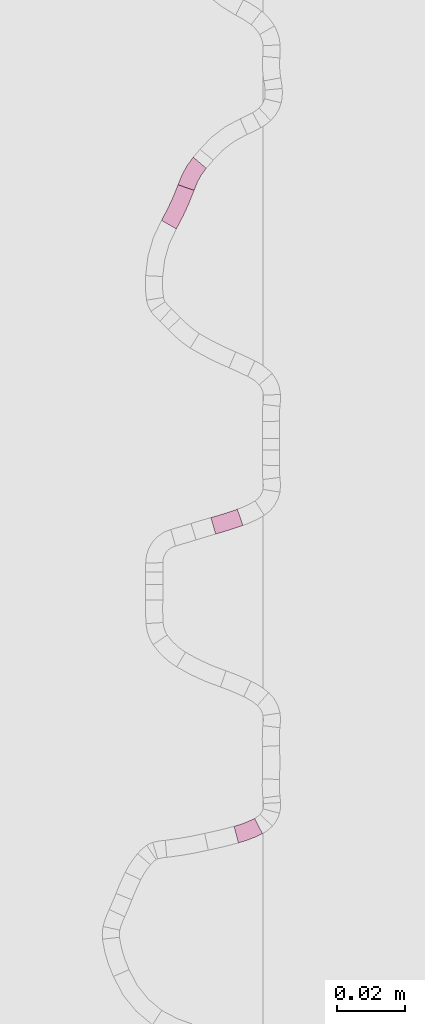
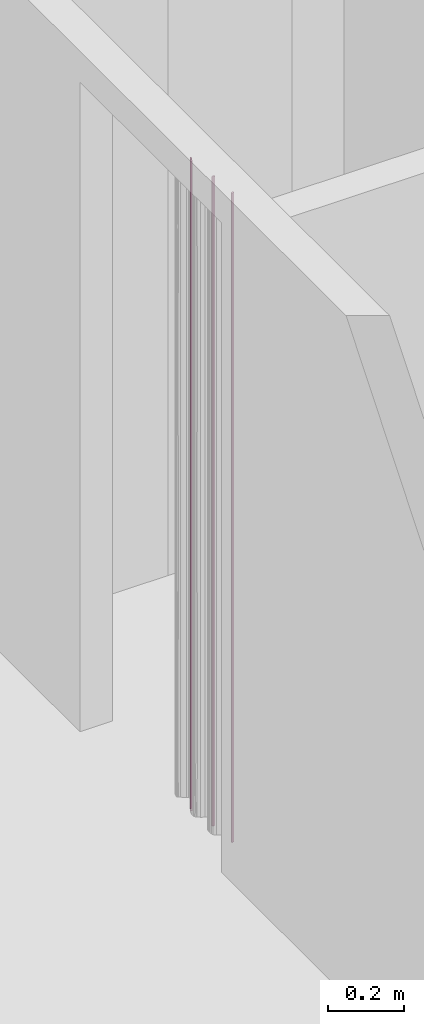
# One storey, part 207 of 418: 4 furnishings.
"""IFC2X3 building model written with IfcOpenShell, lengths in millimetres."""

import ifcopenshell
import ifcopenshell.guid

model = None  # the IFC model being written
_history = None  # IfcOwnerHistory: only IFC2X3 demands one
_inside = {}  # id of a spatial element -> (the spatial element, [elements in it])
_under = {}  # id of a project, library or spatial element -> (it, [spatial elements below it])
_declared = {}  # id of a project -> (the project, [libraries it declares])
_typed = {}  # id of a type object -> (the type object, [elements of that type])
_made_of = {}  # id of a material, layer set ... -> (it, [elements and type objects made of it])


def new_model(schema):
    """Start an empty IFC model of exactly this schema.

    Asked for "IFC4X3", IfcOpenShell would pick the latest addendum, in which some entities
    have other attributes; the version numbers below select the first issue.
    IFC2X3 requires an IfcOwnerHistory on every rooted entity: one is made here for all.
    """
    global model, _history
    if schema == "IFC4X3":
        model = ifcopenshell.file(schema_version=(4, 3, 0, 0))
    else:
        model = ifcopenshell.file(schema=schema)
    _inside.clear()
    _under.clear()
    _declared.clear()
    _typed.clear()
    _made_of.clear()
    _history = None
    if model.schema == "IFC2X3":
        org = make("IfcOrganization", Name="unknown")
        user = make(
            "IfcPersonAndOrganization",
            ThePerson=make("IfcPerson", FamilyName="unknown"),
            TheOrganization=org,
        )
        app = make(
            "IfcApplication",
            ApplicationDeveloper=org,
            Version="unknown",
            ApplicationFullName="unknown",
            ApplicationIdentifier="unknown",
        )
        _history = make(
            "IfcOwnerHistory",
            OwningUser=user,
            OwningApplication=app,
            ChangeAction="ADDED",
            CreationDate=0,
        )
    return model


def make(cls, **values):
    """One entity of the class cls with the attributes given. An attribute that is None is left unset."""
    return model.create_entity(
        cls, **{name: value for name, value in values.items() if value is not None}
    )


def entity(cls, *values):
    """Any entity or typed value of the class cls, its attributes in the order of the schema. None: left unset."""
    e = model.create_entity(cls)
    for i, value in enumerate(values):
        if value is not None:
            e[i] = value
    return e


def rooted(cls, **values):
    """An entity with a GlobalId (a new one), such as an element, a storey or a relation."""
    return make(cls, GlobalId=ifcopenshell.guid.new(), OwnerHistory=_history, **values)


def si_unit(unit_type, name, prefix=None):
    """IfcSIUnit, for example si_unit("LENGTHUNIT", "METRE", prefix="MILLI")."""
    return make("IfcSIUnit", UnitType=unit_type, Prefix=prefix, Name=name)


def converted_unit(unit_type, name, factor, base, dimensions=None, offset=None):
    """IfcConversionBasedUnit, such as the inch: factor (a typed value) times the base unit."""
    return make(
        "IfcConversionBasedUnit"
        if offset is None
        else "IfcConversionBasedUnitWithOffset",
        ConversionOffset=offset,
        Dimensions=None
        if dimensions is None
        else entity("IfcDimensionalExponents", *dimensions),
        UnitType=unit_type,
        Name=name,
        ConversionFactor=make(
            "IfcMeasureWithUnit", ValueComponent=factor, UnitComponent=base
        ),
    )


def derived_unit(unit_type, elements):
    """IfcDerivedUnit: a product of units, each with its exponent."""
    return make(
        "IfcDerivedUnit",
        Elements=[
            make("IfcDerivedUnitElement", Unit=unit, Exponent=power)
            for unit, power in elements
        ],
        UnitType=unit_type,
    )


def money_unit(currency):
    """IfcMonetaryUnit."""
    return make("IfcMonetaryUnit", Currency=currency)


def assignment(units):
    """IfcUnitAssignment: the units of a project."""
    return None if units is None else make("IfcUnitAssignment", Units=units)


def point(xyz):
    """IfcCartesianPoint."""
    return None if xyz is None else make("IfcCartesianPoint", Coordinates=xyz)


def direction(xyz):
    """IfcDirection."""
    return None if xyz is None else make("IfcDirection", DirectionRatios=xyz)


def frame(location, z_axis=None, x_axis=None):
    """IfcAxis2Placement3D, a coordinate frame: its origin and axes. An axis left out is left unset."""
    return make(
        "IfcAxis2Placement3D",
        Location=point(location),
        Axis=direction(z_axis),
        RefDirection=direction(x_axis),
    )


def frame_2d(location, x_axis=None):
    """IfcAxis2Placement2D, a coordinate frame in the plane: its origin and x axis."""
    return make(
        "IfcAxis2Placement2D", Location=point(location), RefDirection=direction(x_axis)
    )


def origin_with_axes():
    """The frame at (0, 0, 0) with the z axis (0, 0, 1) and the x axis (1, 0, 0) written out."""
    return frame((0.0, 0.0, 0.0), z_axis=(0.0, 0.0, 1.0), x_axis=(1.0, 0.0, 0.0))


def place(relative_to, where):
    """IfcLocalPlacement: puts the frame where relative to a parent placement (None: the world)."""
    return make(
        "IfcLocalPlacement", PlacementRelTo=relative_to, RelativePlacement=where
    )


def context(
    kind, dimensions, precision=None, world=None, true_north=None, identifier=None
):
    """IfcGeometricRepresentationContext, for example the 3D "Model" context."""
    return make(
        "IfcGeometricRepresentationContext",
        ContextIdentifier=identifier,
        ContextType=kind,
        CoordinateSpaceDimension=dimensions,
        Precision=precision,
        WorldCoordinateSystem=world,
        TrueNorth=true_north,
    )


def subcontext(parent, identifier, kind, view, scale=None):
    """IfcGeometricRepresentationSubContext, for example "Body" below "Model"."""
    return make(
        "IfcGeometricRepresentationSubContext",
        ContextIdentifier=identifier,
        ContextType=kind,
        ParentContext=parent,
        TargetScale=scale,
        TargetView=view,
    )


def project(units=None, contexts=None):
    """IfcProject with its units and contexts."""
    return rooted(
        "IfcProject",
        Name="project",
        RepresentationContexts=contexts,
        UnitsInContext=assignment(units),
    )


def spatial(cls, under=None, at=None, **own):
    """A site, building, storey or space (cls), placed at a placement, below another one or the project."""
    s = rooted(cls, ObjectPlacement=at, **own)
    if under is not None:
        _under.setdefault(under.id(), (under, []))[1].append(s)
    return s


def polyline(points):
    """IfcPolyline through the points."""
    return make("IfcPolyline", Points=[point(p) for p in points])


def circle_curve(where, radius):
    """IfcCircle in the frame where."""
    return make("IfcCircle", Position=where, Radius=radius)


def parameter(value):
    """IfcParameterValue: where a trimmed curve begins or ends, as a parameter of its basis curve."""
    return model.create_entity("IfcParameterValue", value)


def trimmed(basis, trim1, trim2, sense, master):
    """IfcTrimmedCurve: the piece of a basis curve between two trims."""
    return make(
        "IfcTrimmedCurve",
        BasisCurve=basis,
        Trim1=trim1,
        Trim2=trim2,
        SenseAgreement=sense,
        MasterRepresentation=master,
    )


def segment(curve, same_sense, transition):
    """IfcCompositeCurveSegment."""
    return make(
        "IfcCompositeCurveSegment",
        Transition=transition,
        SameSense=same_sense,
        ParentCurve=curve,
    )


def composite_curve(segments, self_intersect=None):
    """IfcCompositeCurve: segments joined end to end."""
    return make("IfcCompositeCurve", Segments=segments, SelfIntersect=self_intersect)


def outline(outer, holes=None, kind="AREA"):
    """IfcArbitraryClosedProfileDef: a profile drawn as a closed curve; with holes, ...WithVoids."""
    if holes is None:
        return make("IfcArbitraryClosedProfileDef", ProfileType=kind, OuterCurve=outer)
    return make(
        "IfcArbitraryProfileDefWithVoids",
        ProfileType=kind,
        OuterCurve=outer,
        InnerCurves=holes,
    )


def extrude(swept, where, along, depth):
    """IfcExtrudedAreaSolid: the profile swept, set in the frame where, extruded along a direction by depth."""
    return make(
        "IfcExtrudedAreaSolid",
        SweptArea=swept,
        Position=where,
        ExtrudedDirection=direction(along),
        Depth=depth,
    )


def shape(context_of_items, identifier, shape_type, items):
    """IfcShapeRepresentation: the items that make up one representation, for example the "Body"."""
    return make(
        "IfcShapeRepresentation",
        ContextOfItems=context_of_items,
        RepresentationIdentifier=identifier,
        RepresentationType=shape_type,
        Items=items,
    )


def material(Name=None, Category=None):
    """IfcMaterial."""
    return make("IfcMaterial", Name=Name, Category=Category)


def made_of(thing, what):
    """Note that an element or type object is made of a material, layer set ...; save() writes the relation."""
    if what is not None:
        _made_of.setdefault(what.id(), (what, []))[1].append(thing)
    return thing


def type_object(cls, material=None, **own):
    """A type object (cls), such as IfcWallType, which elements share."""
    return made_of(rooted(cls, **own), material)


def element(
    cls,
    number,
    at=None,
    inside=None,
    cuts=None,
    type_object=None,
    material=None,
    context=None,
    identifier="Body",
    shape_type=None,
    held_by="IfcProductDefinitionShape",
    body=None,
    shapes=None,
    **own,
):
    """One element of the class cls, such as IfcWall. Its Tag is "e" and its number.

    at: its placement. inside: the storey or other place that contains it. cuts: it is an
    opening in that element (IfcRelVoidsElement). A single representation is given by context,
    identifier, shape_type and body (its items); several are given by shapes. held_by: the class
    of the entity that holds the representations. save() writes the other relations.
    """
    e = rooted(cls, Tag="e%d" % number, ObjectPlacement=at, **own)
    if body is not None:
        shapes = [shape(context, identifier, shape_type, body)]
    if shapes is not None:
        e.Representation = make(held_by, Representations=shapes)
    if inside is not None:
        _inside.setdefault(inside.id(), (inside, []))[1].append(e)
    if cuts is not None:
        rooted(
            "IfcRelVoidsElement", RelatingBuildingElement=cuts, RelatedOpeningElement=e
        )
    if type_object is not None:
        _typed.setdefault(type_object.id(), (type_object, []))[1].append(e)
    return made_of(e, material)


def aggregate(whole, parts):
    """IfcRelAggregates: a whole, such as a stair, and the parts it consists of."""
    return rooted("IfcRelAggregates", RelatingObject=whole, RelatedObjects=parts)


def save(model, path):
    """Write the relations noted so far, then the file.

    IfcRelAggregates (storeys below a building ...), IfcRelContainedInSpatialStructure (elements
    in a storey), IfcRelDefinesByType, IfcRelAssociatesMaterial and IfcRelDeclares: one each for
    every whole, place, type object, material and project.
    """
    for whole, parts in _under.values():
        aggregate(whole, parts)
    for where, things in _inside.values():
        rooted(
            "IfcRelContainedInSpatialStructure",
            RelatedElements=things,
            RelatingStructure=where,
        )
    for kind, things in _typed.values():
        rooted("IfcRelDefinesByType", RelatedObjects=things, RelatingType=kind)
    for what, things in _made_of.values():
        rooted("IfcRelAssociatesMaterial", RelatedObjects=things, RelatingMaterial=what)
    for by, libraries in _declared.values():
        rooted("IfcRelDeclares", RelatingContext=by, RelatedDefinitions=libraries)
    model.write(path)


model = new_model("IFC2X3")

# Units and contexts
model_context = context("Model", 3, precision=0.01, world=origin_with_axes(), true_north=direction((0.0, 1.0)))
body_context = subcontext(model_context, "Body", "Model", "MODEL_VIEW")
ifc_project = project(units=[si_unit("LENGTHUNIT", "METRE", prefix="MILLI"), si_unit("AREAUNIT", "SQUARE_METRE"), si_unit("VOLUMEUNIT", "CUBIC_METRE"), converted_unit("PLANEANGLEUNIT", "DEGREE", entity("IfcPlaneAngleMeasure", 0.0174532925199), si_unit("PLANEANGLEUNIT", "RADIAN"), dimensions=[0, 0, 0, 0, 0, 0, 0]), si_unit("SOLIDANGLEUNIT", "STERADIAN"), money_unit("EUR"), converted_unit("TIMEUNIT", "Year", entity("IfcTimeMeasure", 31556926.0), si_unit("TIMEUNIT", "SECOND"), dimensions=[0, 0, 1, 0, 0, 0, 0]), si_unit("MASSUNIT", "GRAM", prefix="KILO"), si_unit("THERMODYNAMICTEMPERATUREUNIT", "DEGREE_CELSIUS"), si_unit("LUMINOUSINTENSITYUNIT", "LUMEN"), si_unit("ENERGYUNIT", "JOULE", prefix="MEGA"), derived_unit("THERMALCONDUCTANCEUNIT", [(si_unit("POWERUNIT", "WATT"), 1), (si_unit("LENGTHUNIT", "METRE"), -1), (si_unit("THERMODYNAMICTEMPERATUREUNIT", "KELVIN"), -1)]), derived_unit("SPECIFICHEATCAPACITYUNIT", [(si_unit("ENERGYUNIT", "JOULE"), 1), (si_unit("MASSUNIT", "GRAM", prefix="KILO"), -1), (si_unit("THERMODYNAMICTEMPERATUREUNIT", "KELVIN"), -1)]), derived_unit("MASSDENSITYUNIT", [(si_unit("MASSUNIT", "GRAM", prefix="KILO"), 1), (si_unit("VOLUMEUNIT", "CUBIC_METRE"), -1)])], contexts=[model_context])

# Site, building, storey
site_placement = place(None, origin_with_axes())
site = spatial("IfcSite", under=ifc_project, at=site_placement, Name="Paldiski mnt 245/1, Tallinn, Harjumaa", CompositionType="COMPLEX")
building_placement = place(site_placement, origin_with_axes())
building = spatial("IfcBuilding", under=site, at=building_placement, Name="RKAS Hoone üldnimetus (kasutust iseloomustav) -> IFC Project Manager -> SOLIBRI", CompositionType="ELEMENT")
storey_placement = place(building_placement, origin_with_axes())
storey = spatial("IfcBuildingStorey", under=building, at=storey_placement, Name="Esimene korrus", CompositionType="ELEMENT", Elevation=0.0)

# Furnishings
ifc_material = material(Name="KON-00_GENEERILINE - KONSTRUKTSIOON")
furniture_type = type_object("IfcFurnitureType", Name="KON-00_GENEERILINE - KONSTRUKTSIOON 5", AssemblyPlace="NOTDEFINED")
furnishing_1_placement = place(storey_placement, frame((-45030.8828673, -1259.09631624, 0.0), z_axis=(0.0, 0.0, 1.0), x_axis=(0.967779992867, 0.251797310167, 0.0)))
element("IfcFurnishingElement", 1, at=furnishing_1_placement, inside=storey, type_object=furniture_type, material=ifc_material, Name="SS-28", context=body_context, shape_type="SweptSolid", body=[
    extrude(outline(composite_curve([segment(trimmed(circle_curve(frame_2d((0.0, 29.2311572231), x_axis=(0.00144729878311, -0.999998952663)), 34.2311572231), [point((0.0495427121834, -4.99996414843)), parameter(0.0)], [point((7.53927508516, -4.15943211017)), parameter(12.6405573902)], True, "CARTESIAN"), True, "CONTINUOUS"), segment(polyline([(7.53927508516, -4.15943211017), (6.41320119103, 0.712191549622)]), True, "CONTINUOUS"), segment(trimmed(circle_curve(frame_2d((0.0, 29.2311572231), x_axis=(0.0, -1.0)), 29.2311572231), [point((6.41320119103, 0.712191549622)), parameter(12.6735641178)], [point((0.0, 0.0)), parameter(0.0)], False, "CARTESIAN"), True, "CONTINUOUS"), segment(polyline([(0.0, 0.0), (0.0495427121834, -4.99996414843)]), True, "CONTINUOUS")], self_intersect=False)), origin_with_axes(), (0.0, 0.0, 1.0), 2100.0),
])
furnishing_2_placement = place(storey_placement, frame((-45042.7716067, -1063.57163076, 0.0), z_axis=(0.0, 0.0, 1.0), x_axis=(-0.640966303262, -0.767569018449, 0.0)))
element("IfcFurnishingElement", 2, at=furnishing_2_placement, inside=storey, type_object=furniture_type, material=ifc_material, Name="SS-85", context=body_context, shape_type="SweptSolid", body=[
    extrude(outline(composite_curve([segment(trimmed(circle_curve(frame_2d((0.0, 24.4911736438), x_axis=(0.0, -1.0)), 24.4911736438), [point((0.0, 0.0)), parameter(0.0)], [point((9.06170502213, 1.73808399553)), parameter(21.7155436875)], True, "CARTESIAN"), True, "CONTINUOUS"), segment(polyline([(9.06170502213, 1.73808399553), (7.28930427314, 6.41434059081)]), True, "CONTINUOUS"), segment(trimmed(circle_curve(frame_2d((0.0, 24.4911736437), x_axis=(0.00383247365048, -0.999992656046)), 19.4911736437), [point((7.28930427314, 6.41434059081)), parameter(21.7416841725)], [point((0.0746994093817, 5.00014314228)), parameter(0.0)], False, "CARTESIAN"), True, "CONTINUOUS"), segment(polyline([(0.0746994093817, 5.00014314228), (0.0, 0.0)]), True, "CONTINUOUS")], self_intersect=False)), origin_with_axes(), (0.0, 0.0, 1.0), 2100.0),
])
furnishing_3_placement = place(storey_placement, frame((-45052.0677522, -1082.05771934, 0.0), z_axis=(0.0, 0.0, 1.0), x_axis=(0.491870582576, 0.870668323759, 0.0)))
element("IfcFurnishingElement", 3, at=furnishing_3_placement, inside=storey, type_object=furniture_type, material=ifc_material, Name="SS-86", context=body_context, shape_type="SweptSolid", body=[
    extrude(outline(composite_curve([segment(trimmed(circle_curve(frame_2d((0.0, 71.2014971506), x_axis=(-0.000246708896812, -0.999999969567)), 76.2014971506), [point((-0.0187995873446, -4.99999768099)), parameter(0.0)], [point((12.3402624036, -3.99415492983)), parameter(9.33380036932)], True, "CARTESIAN"), True, "CONTINUOUS"), segment(polyline([(12.3402624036, -3.99415492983), (11.4411599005, 0.9252347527)]), True, "CONTINUOUS"), segment(trimmed(circle_curve(frame_2d((0.0, 71.2014971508), x_axis=(0.0, -1.0)), 71.2014971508), [point((11.4411599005, 0.9252347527)), parameter(9.24677841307)], [point((0.0, 0.0)), parameter(0.0)], False, "CARTESIAN"), True, "CONTINUOUS"), segment(polyline([(0.0, 0.0), (-0.0187995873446, -4.99999768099)]), True, "CONTINUOUS")], self_intersect=False)), origin_with_axes(), (0.0, 0.0, 1.0), 2100.0),
])
furnishing_4_placement = place(storey_placement, frame((-45037.6282743, -1168.8905534, 0.0), z_axis=(0.0, 0.0, 1.0), x_axis=(0.963689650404, 0.267024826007, 0.0)))
element("IfcFurnishingElement", 4, at=furnishing_4_placement, inside=storey, type_object=furniture_type, material=ifc_material, Name="SS-06", context=body_context, shape_type="SweptSolid", body=[
    extrude(outline(composite_curve([segment(trimmed(circle_curve(frame_2d((0.0, 109.873180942), x_axis=(0.000290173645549, -0.9999999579)), 114.873180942), [point((0.0333331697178, -4.99999516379)), parameter(0.0)], [point((8.40304726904, -4.69224358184)), parameter(4.17834441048)], True, "CARTESIAN"), True, "CONTINUOUS"), segment(polyline([(8.40304726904, -4.69224358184), (8.10769926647, 0.299547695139)]), True, "CONTINUOUS"), segment(trimmed(circle_curve(frame_2d((0.0, 109.873180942), x_axis=(0.0, -1.0)), 109.873180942), [point((8.10769926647, 0.299547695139)), parameter(4.23178397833)], [point((0.0, 0.0)), parameter(0.0)], False, "CARTESIAN"), True, "CONTINUOUS"), segment(polyline([(0.0, 0.0), (0.0333331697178, -4.99999516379)]), True, "CONTINUOUS")], self_intersect=False)), origin_with_axes(), (0.0, 0.0, 1.0), 2100.0),
])

save(model, "model.ifc")
